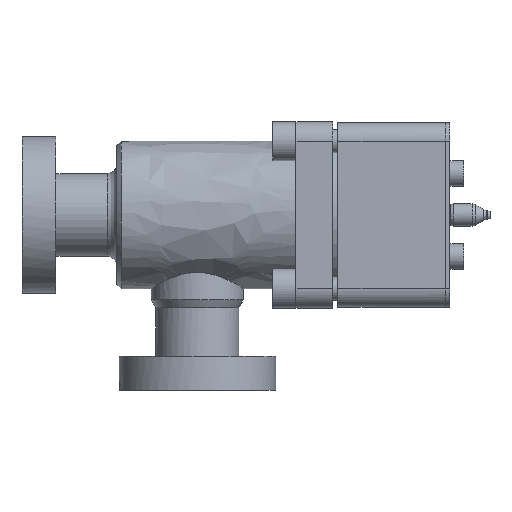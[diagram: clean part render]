
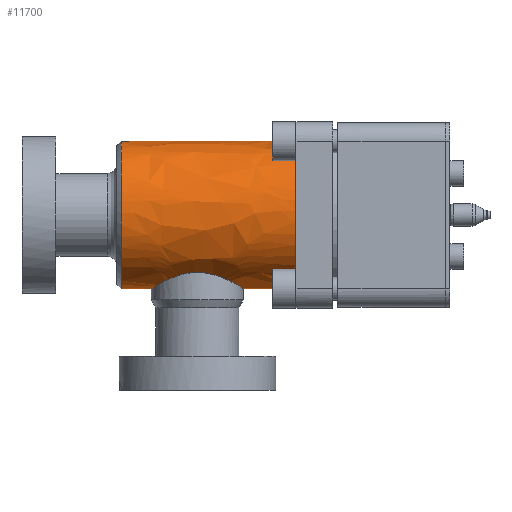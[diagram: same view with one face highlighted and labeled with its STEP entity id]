
A CAD part, top view. The second image highlights one B-rep face of the part: STEP entity #11700.
In plain terms, the highlighted free-form (B-spline) face has degree [2, 1] with [7, 2] control points.
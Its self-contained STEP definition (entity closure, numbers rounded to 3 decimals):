
#11349=CARTESIAN_POINT('V29',(20.9,16.,
   0.0));
#11350=VERTEX_POINT('V29',#11349);
#11358=CARTESIAN_POINT('E48',(20.9,16.,
   0.));
#11359=CARTESIAN_POINT('E48',(20.9,16.,
   27.713));
#11360=CARTESIAN_POINT('E48',(20.9,-8.,
   13.856));
#11361=CARTESIAN_POINT('E48',(20.9,-32.,
   0.));
#11362=CARTESIAN_POINT('E48',(20.9,-8.,
   -13.856));
#11363=CARTESIAN_POINT('E48',(20.9,16.,
   -27.713));
#11364=CARTESIAN_POINT('E48',(20.9,16.,
   0.));
#11372=(BOUNDED_CURVE()B_SPLINE_CURVE(2,(#11358,#11359,#11360,
   #11361,#11362,#11363,#11364),.CIRCULAR_ARC.,.T.,.U.)
   B_SPLINE_CURVE_WITH_KNOTS((3,2,2,3),(2.0,24.214,
   46.429,68.643),.UNSPECIFIED.)CURVE()
   GEOMETRIC_REPRESENTATION_ITEM()RATIONAL_B_SPLINE_CURVE((1.0,
   0.5,1.0,0.5,1.0,0.5,1.0)
   )REPRESENTATION_ITEM('E48'));
#11373=EDGE_CURVE('E48',#11350,#11350,#11372,.T.);
#11580=CARTESIAN_POINT('V18',(58.6,16.,
   0.0));
#11581=VERTEX_POINT('V18',#11580);
#11589=CARTESIAN_POINT('E27',(58.6,16.,
   0.0));
#11590=CARTESIAN_POINT('E27',(58.6,16.,
   -27.713));
#11591=CARTESIAN_POINT('E27',(58.6,-8.,
   -13.856));
#11592=CARTESIAN_POINT('E27',(58.6,-32.,
   0.));
#11593=CARTESIAN_POINT('E27',(58.6,-8.,
   13.856));
#11594=CARTESIAN_POINT('E27',(58.6,16.,
   27.713));
#11595=CARTESIAN_POINT('E27',(58.6,16.,
   0.0));
#11603=(BOUNDED_CURVE()B_SPLINE_CURVE(2,(#11589,#11590,#11591,
   #11592,#11593,#11594,#11595),.CIRCULAR_ARC.,.T.,.U.)
   B_SPLINE_CURVE_WITH_KNOTS((3,2,2,3),(0.0,197.184,
   394.368,591.552),.UNSPECIFIED.)CURVE()
   GEOMETRIC_REPRESENTATION_ITEM()RATIONAL_B_SPLINE_CURVE((1.0,
   0.5,1.0,0.5,1.0,0.5,1.0)
   )REPRESENTATION_ITEM('E27'));
#11604=EDGE_CURVE('E27',#11581,#11581,#11603,.T.);
#11609=CARTESIAN_POINT('F22',(19.9,16.,
   0.0));
#11610=CARTESIAN_POINT('F22',(19.9,16.,
   27.713));
#11611=CARTESIAN_POINT('F22',(19.9,-8.,
   13.856));
#11612=CARTESIAN_POINT('F22',(19.9,-32.,
   0.));
#11613=CARTESIAN_POINT('F22',(19.9,-8.,
   -13.856));
#11614=CARTESIAN_POINT('F22',(19.9,16.,
   -27.713));
#11615=CARTESIAN_POINT('F22',(19.9,16.,
   0.0));
#11616=CARTESIAN_POINT('F22',(58.6,16.,
   0.0));
#11617=CARTESIAN_POINT('F22',(58.6,16.,
   27.713));
#11618=CARTESIAN_POINT('F22',(58.6,-8.,
   13.856));
#11619=CARTESIAN_POINT('F22',(58.6,-32.,
   0.));
#11620=CARTESIAN_POINT('F22',(58.6,-8.,
   -13.856));
#11621=CARTESIAN_POINT('F22',(58.6,16.,
   -27.713));
#11622=CARTESIAN_POINT('F22',(58.6,16.,
   0.0));
#11630=(BOUNDED_SURFACE()B_SPLINE_SURFACE(2,1,((#11609,#11616),(
   #11610,#11617),(#11611,#11618),(#11612,#11619),(#11613,
   #11620),(#11614,#11621),(#11615,#11622)),.CYLINDRICAL_SURF.,
   .T.,.F.,.U.)B_SPLINE_SURFACE_WITH_KNOTS((3,2,2,3),(2,2),(0.0,
   1.432,2.864,4.297),(0.0,1.0),
   .UNSPECIFIED.)GEOMETRIC_REPRESENTATION_ITEM()
   RATIONAL_B_SPLINE_SURFACE(((1.0,1.0),(0.5,
   0.5),(1.0,1.0),(0.5,
   0.5),(1.0,1.0),(0.5,
   0.5),(1.0,1.0)))REPRESENTATION_ITEM('F22')SURFACE(
   ));
#11631=ORIENTED_EDGE('E48',*,*,#11373,.F.);
#11632=CARTESIAN_POINT('V27',(29.4,16.,
   0.0));
#11633=VERTEX_POINT('V27',#11632);
#11634=CARTESIAN_POINT('E41',(29.4,16.,
   0.0));
#11635=CARTESIAN_POINT('E41',(20.9,16.,
   0.0));
#11636=B_SPLINE_CURVE_WITH_KNOTS('E41',1,(#11634,#11635),
   .POLYLINE_FORM.,.F.,.U.,(2,2),(0.755,
   0.974),.UNSPECIFIED.);
#11637=EDGE_CURVE('E41',#11633,#11350,#11636,.T.);
#11638=ORIENTED_EDGE('E41',*,*,#11637,.F.);
#11639=CARTESIAN_POINT('V26',(37.4,13.856,
   8.));
#11640=VERTEX_POINT('V26',#11639);
#11641=CARTESIAN_POINT('E40',(37.4,13.856,
   8.));
#11642=CARTESIAN_POINT('E40',(36.897,13.856,
   8.));
#11643=CARTESIAN_POINT('E40',(36.397,13.884,
   7.953));
#11644=CARTESIAN_POINT('E40',(34.523,14.085,
   7.596));
#11645=CARTESIAN_POINT('E40',(33.298,14.421,
   6.987));
#11646=CARTESIAN_POINT('E40',(31.231,15.134,
   5.282));
#11647=CARTESIAN_POINT('E40',(30.319,15.554,
   4.05));
#11648=CARTESIAN_POINT('E40',(29.541,15.928,
   1.724));
#11649=CARTESIAN_POINT('E40',(29.4,16.,
   0.868));
#11650=CARTESIAN_POINT('E40',(29.4,16.,
   0.0));
#11651=B_SPLINE_CURVE_WITH_KNOTS('E40',3,(#11641,#11642,#11643,
   #11644,#11645,#11646,#11647,#11648,#11649,#11650),.UNSPECIFIED.,
   .F.,.U.,(4,2,2,2,4),(0.0,0.117,0.446,
   0.806,1.0),.UNSPECIFIED.);
#11652=EDGE_CURVE('E40',#11640,#11633,#11651,.T.);
#11653=ORIENTED_EDGE('E40',*,*,#11652,.F.);
#11654=CARTESIAN_POINT('V28',(45.4,16.,
   0.0));
#11655=VERTEX_POINT('V28',#11654);
#11656=CARTESIAN_POINT('E44',(45.4,16.,
   0.0));
#11657=CARTESIAN_POINT('E44',(45.4,16.,
   0.757));
#11658=CARTESIAN_POINT('E44',(45.293,15.946,
   1.506));
#11659=CARTESIAN_POINT('E44',(44.845,15.728,
   3.051));
#11660=CARTESIAN_POINT('E44',(44.488,15.559,
   3.788));
#11661=CARTESIAN_POINT('E44',(42.994,14.912,
   6.036));
#11662=CARTESIAN_POINT('E44',(41.372,14.294,
   7.212));
#11663=CARTESIAN_POINT('E44',(38.814,13.912,
   7.906));
#11664=CARTESIAN_POINT('E44',(38.111,13.856,
   8.));
#11665=CARTESIAN_POINT('E44',(37.4,13.856,
   8.));
#11666=B_SPLINE_CURVE_WITH_KNOTS('E44',3,(#11656,#11657,#11658,
   #11659,#11660,#11661,#11662,#11663,#11664,#11665),.UNSPECIFIED.,
   .F.,.U.,(4,2,2,2,4),(0.0,0.165,0.354,
   0.828,1.0),.UNSPECIFIED.);
#11667=EDGE_CURVE('E44',#11655,#11640,#11666,.T.);
#11668=ORIENTED_EDGE('E44',*,*,#11667,.F.);
#11669=CARTESIAN_POINT('E43',(58.6,16.,
   0.0));
#11670=CARTESIAN_POINT('E43',(45.4,16.,
   0.0));
#11671=B_SPLINE_CURVE_WITH_KNOTS('E43',1,(#11669,#11670),
   .POLYLINE_FORM.,.F.,.U.,(2,2),(0.0,0.341),
   .UNSPECIFIED.);
#11672=EDGE_CURVE('E43',#11581,#11655,#11671,.T.);
#11673=ORIENTED_EDGE('E43',*,*,#11672,.F.);
#11674=ORIENTED_EDGE('F16',*,*,#11604,.F.);
#11675=ORIENTED_EDGE('E43',*,*,#11672,.T.);
#11676=CARTESIAN_POINT('E42',(29.4,16.,
   0.0));
#11677=CARTESIAN_POINT('E42',(29.4,16.,
   -0.453));
#11678=CARTESIAN_POINT('E42',(29.438,15.981,
   -0.903));
#11679=CARTESIAN_POINT('E42',(29.702,15.85,
   -2.448));
#11680=CARTESIAN_POINT('E42',(30.103,15.654,
   -3.41));
#11681=CARTESIAN_POINT('E42',(31.605,14.992,
   -5.839));
#11682=CARTESIAN_POINT('E42',(33.16,14.382,
   -7.042));
#11683=CARTESIAN_POINT('E42',(35.708,13.94,
   -7.859));
#11684=CARTESIAN_POINT('E42',(36.492,13.863,
   -7.988));
#11685=CARTESIAN_POINT('E42',(38.08,13.851,
   -8.01));
#11686=CARTESIAN_POINT('E42',(38.859,13.913,
   -7.905));
#11687=CARTESIAN_POINT('E42',(40.271,14.136,
   -7.499));
#11688=CARTESIAN_POINT('E42',(40.888,14.278,
   -7.229));
#11689=CARTESIAN_POINT('E42',(42.713,14.791,
   -6.158));
#11690=CARTESIAN_POINT('E42',(43.804,15.251,
   -5.048));
#11691=CARTESIAN_POINT('E42',(44.989,15.793,
   -2.729));
#11692=CARTESIAN_POINT('E42',(45.4,16.,
   -1.484));
#11693=CARTESIAN_POINT('E42',(45.4,16.,
   0.0));
#11694=B_SPLINE_CURVE_WITH_KNOTS('E42',3,(#11676,#11677,#11678,
   #11679,#11680,#11681,#11682,#11683,#11684,#11685,#11686,#11687,
   #11688,#11689,#11690,#11691,#11692,#11693),.UNSPECIFIED.,.F.,.U.,
   (4,2,2,2,2,2,2,2,4),(0.0,0.047,0.162,
   0.399,0.497,0.595,
   0.681,0.874,1.0),.UNSPECIFIED.);
#11695=EDGE_CURVE('E42',#11633,#11655,#11694,.T.);
#11696=ORIENTED_EDGE('E42',*,*,#11695,.F.);
#11697=ORIENTED_EDGE('E41',*,*,#11637,.T.);
#11698=EDGE_LOOP('F22',(#11631,#11638,#11653,#11668,#11673,#11674,
   #11675,#11696,#11697));
#11699=FACE_OUTER_BOUND('F22',#11698,.F.);
#11700=ADVANCED_FACE('F22',(#11699),#11630,.T.);
